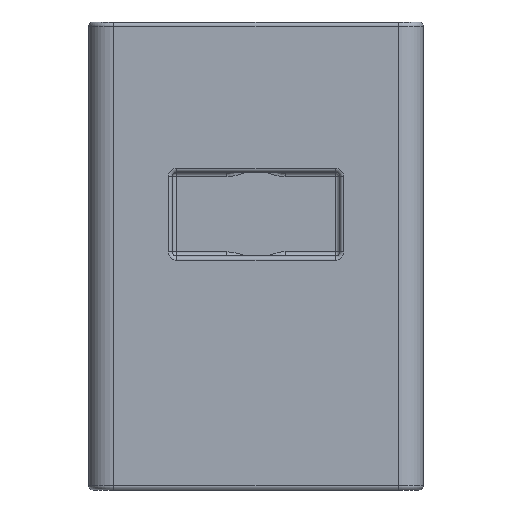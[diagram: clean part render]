
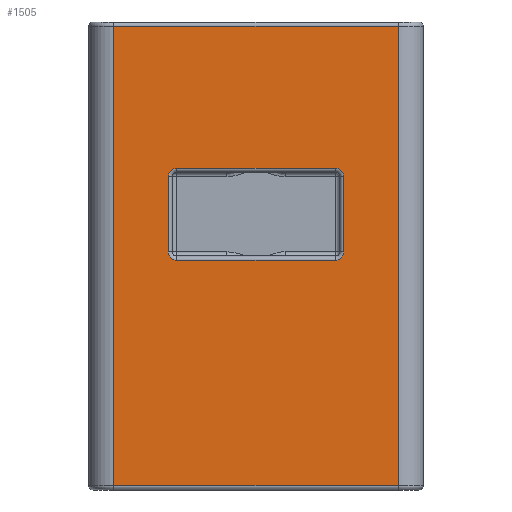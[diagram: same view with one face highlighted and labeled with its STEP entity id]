
A CAD part, front view. The second image highlights one B-rep face of the part: STEP entity #1505.
In plain terms, the highlighted planar face has unit normal (0, -1, 0).
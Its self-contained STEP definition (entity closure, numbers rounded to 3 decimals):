
#14 = CARTESIAN_POINT ( 'NONE',  ( 7.397, -14.691, 28. ) ) ;
#28 = AXIS2_PLACEMENT_3D ( 'NONE', #1354, #1060, #355 ) ;
#66 = EDGE_CURVE ( 'NONE', #3351, #1112, #3631, .T. ) ;
#80 = CARTESIAN_POINT ( 'NONE',  ( -11.103, -14.691, 0.25 ) ) ;
#192 = CARTESIAN_POINT ( 'NONE',  ( 3.647, -14.691, 14.25 ) ) ;
#195 = CIRCLE ( 'NONE', #4265, 0.5 ) ;
#275 = VERTEX_POINT ( 'NONE', #2225 ) ;
#279 = VECTOR ( 'NONE', #2710, 1000. ) ;
#302 = CARTESIAN_POINT ( 'NONE',  ( -5.853, -14.691, 13.75 ) ) ;
#320 = EDGE_CURVE ( 'NONE', #1630, #668, #3349, .T. ) ;
#355 = DIRECTION ( 'NONE',  ( 0., 0., 1. ) ) ;
#390 = DIRECTION ( 'NONE',  ( 0., 0., 1. ) ) ;
#514 = EDGE_CURVE ( 'NONE', #3010, #3351, #1945, .T. ) ;
#516 = DIRECTION ( 'NONE',  ( 0., 0., 1. ) ) ;
#526 = VECTOR ( 'NONE', #390, 1000. ) ;
#546 = DIRECTION ( 'NONE',  ( 0., 0., 1. ) ) ;
#588 = ORIENTED_EDGE ( 'NONE', *, *, #3200, .F. ) ;
#630 = VERTEX_POINT ( 'NONE', #3039 ) ;
#635 = CARTESIAN_POINT ( 'NONE',  ( 3.647, -14.691, 19.25 ) ) ;
#668 = VERTEX_POINT ( 'NONE', #302 ) ;
#670 = VECTOR ( 'NONE', #1116, 1000. ) ;
#684 = VECTOR ( 'NONE', #1900, 1000. ) ;
#734 = CARTESIAN_POINT ( 'NONE',  ( -9.603, -14.691, 0.25 ) ) ;
#788 = EDGE_CURVE ( 'NONE', #1178, #3010, #2191, .T. ) ;
#845 = VECTOR ( 'NONE', #2598, 1000. ) ;
#972 = CARTESIAN_POINT ( 'NONE',  ( -11.103, -14.691, 19.25 ) ) ;
#981 = EDGE_LOOP ( 'NONE', ( #3163, #1727, #1974, #2373 ) ) ;
#985 = CARTESIAN_POINT ( 'NONE',  ( -5.853, -14.691, 18.75 ) ) ;
#1038 = CIRCLE ( 'NONE', #4158, 0.5 ) ;
#1060 = DIRECTION ( 'NONE',  ( 0., 1., 0. ) ) ;
#1112 = VERTEX_POINT ( 'NONE', #4061 ) ;
#1116 = DIRECTION ( 'NONE',  ( -1., 0., 0. ) ) ;
#1178 = VERTEX_POINT ( 'NONE', #1393 ) ;
#1219 = VECTOR ( 'NONE', #3311, 1000. ) ;
#1268 = ORIENTED_EDGE ( 'NONE', *, *, #2999, .F. ) ;
#1299 = VECTOR ( 'NONE', #3794, 1000. ) ;
#1311 = LINE ( 'NONE', #2417, #526 ) ;
#1330 = DIRECTION ( 'NONE',  ( 0., 0., 1. ) ) ;
#1349 = EDGE_CURVE ( 'NONE', #1112, #1178, #3653, .T. ) ;
#1354 = CARTESIAN_POINT ( 'NONE',  ( -11.103, -14.691, 28. ) ) ;
#1388 = ORIENTED_EDGE ( 'NONE', *, *, #2663, .T. ) ;
#1393 = CARTESIAN_POINT ( 'NONE',  ( 7.397, -14.691, 27.75 ) ) ;
#1486 = ORIENTED_EDGE ( 'NONE', *, *, #4124, .T. ) ;
#1505 = ADVANCED_FACE ( 'NONE', ( #2238, #3941 ), #4043, .F. ) ;
#1568 = DIRECTION ( 'NONE',  ( 0., -1., 0. ) ) ;
#1630 = VERTEX_POINT ( 'NONE', #4390 ) ;
#1727 = ORIENTED_EDGE ( 'NONE', *, *, #788, .T. ) ;
#1886 = CARTESIAN_POINT ( 'NONE',  ( -9.603, -14.691, 27.75 ) ) ;
#1900 = DIRECTION ( 'NONE',  ( 0., 0., -1. ) ) ;
#1904 = ORIENTED_EDGE ( 'NONE', *, *, #4101, .F. ) ;
#1945 = LINE ( 'NONE', #3873, #3524 ) ;
#1974 = ORIENTED_EDGE ( 'NONE', *, *, #514, .T. ) ;
#2121 = DIRECTION ( 'NONE',  ( 0., 0., -1. ) ) ;
#2191 = LINE ( 'NONE', #4169, #1299 ) ;
#2225 = CARTESIAN_POINT ( 'NONE',  ( -6.353, -14.691, 18.75 ) ) ;
#2231 = CARTESIAN_POINT ( 'NONE',  ( 4.147, -14.691, 28. ) ) ;
#2238 = FACE_BOUND ( 'NONE', #2937, .T. ) ;
#2300 = CARTESIAN_POINT ( 'NONE',  ( -5.853, -14.691, 19.25 ) ) ;
#2325 = VERTEX_POINT ( 'NONE', #635 ) ;
#2340 = AXIS2_PLACEMENT_3D ( 'NONE', #3949, #4279, #516 ) ;
#2373 = ORIENTED_EDGE ( 'NONE', *, *, #66, .T. ) ;
#2417 = CARTESIAN_POINT ( 'NONE',  ( -6.353, -14.691, 28. ) ) ;
#2449 = ORIENTED_EDGE ( 'NONE', *, *, #2872, .T. ) ;
#2512 = VERTEX_POINT ( 'NONE', #2813 ) ;
#2555 = DIRECTION ( 'NONE',  ( 0., -1., 0. ) ) ;
#2598 = DIRECTION ( 'NONE',  ( 1., 0., 0. ) ) ;
#2663 = EDGE_CURVE ( 'NONE', #1630, #275, #1311, .T. ) ;
#2710 = DIRECTION ( 'NONE',  ( 0., 0., 1. ) ) ;
#2813 = CARTESIAN_POINT ( 'NONE',  ( 3.647, -14.691, 13.75 ) ) ;
#2827 = CARTESIAN_POINT ( 'NONE',  ( 4.147, -14.691, 14.25 ) ) ;
#2872 = EDGE_CURVE ( 'NONE', #2512, #668, #3258, .T. ) ;
#2892 = LINE ( 'NONE', #972, #1219 ) ;
#2937 = EDGE_LOOP ( 'NONE', ( #4011, #1388, #588, #4009, #1904, #1486, #1268, #2449 ) ) ;
#2987 = VERTEX_POINT ( 'NONE', #2827 ) ;
#2999 = EDGE_CURVE ( 'NONE', #2512, #2987, #1038, .T. ) ;
#3010 = VERTEX_POINT ( 'NONE', #1886 ) ;
#3039 = CARTESIAN_POINT ( 'NONE',  ( 4.147, -14.691, 18.75 ) ) ;
#3125 = CARTESIAN_POINT ( 'NONE',  ( -11.103, -14.691, 13.75 ) ) ;
#3132 = AXIS2_PLACEMENT_3D ( 'NONE', #3570, #1568, #3922 ) ;
#3143 = VERTEX_POINT ( 'NONE', #2300 ) ;
#3163 = ORIENTED_EDGE ( 'NONE', *, *, #1349, .T. ) ;
#3180 = EDGE_CURVE ( 'NONE', #3143, #2325, #2892, .T. ) ;
#3200 = EDGE_CURVE ( 'NONE', #3143, #275, #195, .T. ) ;
#3258 = LINE ( 'NONE', #3125, #670 ) ;
#3274 = LINE ( 'NONE', #2231, #684 ) ;
#3311 = DIRECTION ( 'NONE',  ( 1., 0., 0. ) ) ;
#3332 = DIRECTION ( 'NONE',  ( 0., -1., 0. ) ) ;
#3349 = CIRCLE ( 'NONE', #2340, 0.5 ) ;
#3351 = VERTEX_POINT ( 'NONE', #734 ) ;
#3524 = VECTOR ( 'NONE', #2121, 1000. ) ;
#3570 = CARTESIAN_POINT ( 'NONE',  ( 3.647, -14.691, 18.75 ) ) ;
#3631 = LINE ( 'NONE', #80, #845 ) ;
#3653 = LINE ( 'NONE', #14, #279 ) ;
#3794 = DIRECTION ( 'NONE',  ( -1., 0., 0. ) ) ;
#3873 = CARTESIAN_POINT ( 'NONE',  ( -9.603, -14.691, 28. ) ) ;
#3922 = DIRECTION ( 'NONE',  ( 0., 0., 1. ) ) ;
#3941 = FACE_OUTER_BOUND ( 'NONE', #981, .T. ) ;
#3949 = CARTESIAN_POINT ( 'NONE',  ( -5.853, -14.691, 14.25 ) ) ;
#4009 = ORIENTED_EDGE ( 'NONE', *, *, #3180, .T. ) ;
#4011 = ORIENTED_EDGE ( 'NONE', *, *, #320, .F. ) ;
#4043 = PLANE ( 'NONE',  #28 ) ;
#4061 = CARTESIAN_POINT ( 'NONE',  ( 7.397, -14.691, 0.25 ) ) ;
#4101 = EDGE_CURVE ( 'NONE', #630, #2325, #4307, .T. ) ;
#4124 = EDGE_CURVE ( 'NONE', #630, #2987, #3274, .T. ) ;
#4158 = AXIS2_PLACEMENT_3D ( 'NONE', #192, #2555, #546 ) ;
#4169 = CARTESIAN_POINT ( 'NONE',  ( -9.603, -14.691, 27.75 ) ) ;
#4265 = AXIS2_PLACEMENT_3D ( 'NONE', #985, #3332, #1330 ) ;
#4279 = DIRECTION ( 'NONE',  ( 0., -1., 0. ) ) ;
#4307 = CIRCLE ( 'NONE', #3132, 0.5 ) ;
#4390 = CARTESIAN_POINT ( 'NONE',  ( -6.353, -14.691, 14.25 ) ) ;
